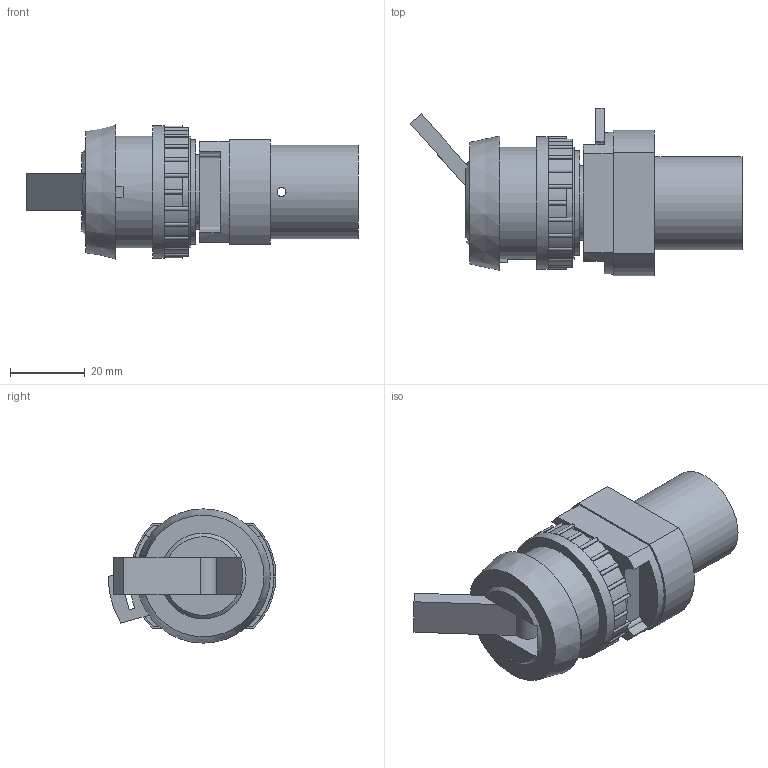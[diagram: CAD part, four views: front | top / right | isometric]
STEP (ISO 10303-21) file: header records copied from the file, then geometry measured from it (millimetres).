
FILE_DESCRIPTION (( 'STEP AP214' ), '1' );
FILE_NAME ('18-T-30-016---T-30-310_Airtec.step', '2018-11-15T13:15:42', ( '' ), ( '' ), 'SwSTEP 2.0', 'SolidWorks 2010', '' );
FILE_SCHEMA (( 'AUTOMOTIVE_DESIGN' ));
Length unit declared in the file: millimetre
Products named in the file (3): Imported; Imported2; 18-T-30-016---T-30-310_Airtec
Assembly tree (2 placements, depth 2):
  18-T-30-016---T-30-310_Airtec
    Imported
    Imported2
Bounding box: 89 x 45 x 36 mm (x, y, z)
Volume: 52482.6 mm3; surface area: 15134.9 mm2
Topology: 2 solids, 2 shells, 277 faces, 739 edges, 480 vertices
Faces by surface type: plane 140, cylinder 131, cone 5, bspline 1
Full cylindrical faces by diameter (mm): 2.4 x1, 4.134 x2, 5 x1, 9 x1, 16 x1, 20 x1, 25 x1, 28 x1, 30 x2, 35.5 x1
Entity records: 8783 total; most frequent: DIRECTION 1605, CARTESIAN_POINT 1573, ORIENTED_EDGE 1432, EDGE_CURVE 716, AXIS2_PLACEMENT_3D 616, VERTEX_POINT 474, VECTOR 373, LINE 373
